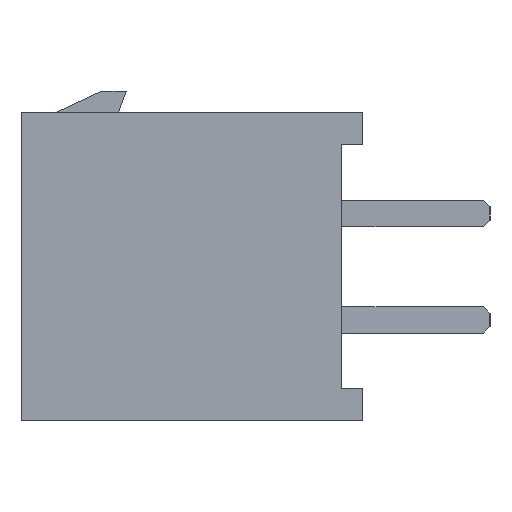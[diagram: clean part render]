
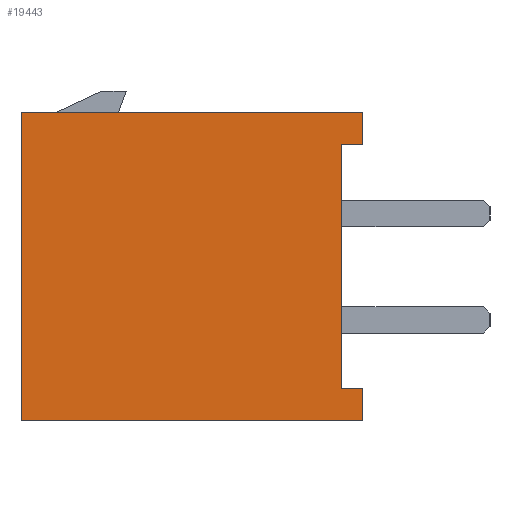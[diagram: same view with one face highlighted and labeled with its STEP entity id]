
A CAD part, left-side view. The second image highlights one B-rep face of the part: STEP entity #19443.
In plain terms, the highlighted planar face has unit normal (-1, 0, 0).
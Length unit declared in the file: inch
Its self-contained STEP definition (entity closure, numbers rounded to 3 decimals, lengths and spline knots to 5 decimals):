
#1281=ORIENTED_EDGE('',*,*,#6048,.F.);
#1282=ORIENTED_EDGE('',*,*,#6263,.F.);
#1283=ORIENTED_EDGE('',*,*,#6836,.F.);
#1284=ORIENTED_EDGE('',*,*,#6833,.F.);
#1285=ORIENTED_EDGE('',*,*,#6146,.F.);
#1286=ORIENTED_EDGE('',*,*,#6831,.F.);
#1287=ORIENTED_EDGE('',*,*,#6828,.F.);
#1288=ORIENTED_EDGE('',*,*,#6590,.F.);
#6048=EDGE_CURVE('',#8922,#8923,#10838,.T.);
#6146=EDGE_CURVE('',#9020,#9021,#10936,.T.);
#6263=EDGE_CURVE('',#9125,#8922,#11053,.T.);
#6590=EDGE_CURVE('',#8923,#9369,#11380,.T.);
#6828=EDGE_CURVE('',#9369,#9524,#11618,.T.);
#6831=EDGE_CURVE('',#9524,#9020,#11621,.T.);
#6833=EDGE_CURVE('',#9021,#9526,#11623,.T.);
#6836=EDGE_CURVE('',#9526,#9125,#11626,.T.);
#8922=VERTEX_POINT('',#26684);
#8923=VERTEX_POINT('',#26686);
#9020=VERTEX_POINT('',#26881);
#9021=VERTEX_POINT('',#26883);
#9125=VERTEX_POINT('',#27112);
#9369=VERTEX_POINT('',#27726);
#9524=VERTEX_POINT('',#28201);
#9526=VERTEX_POINT('',#28210);
#10838=LINE('',#26685,#13712);
#10936=LINE('',#26882,#13810);
#11053=LINE('',#27113,#13927);
#11380=LINE('',#27725,#14254);
#11618=LINE('',#28200,#14492);
#11621=LINE('',#28205,#14495);
#11623=LINE('',#28209,#14497);
#11626=LINE('',#28214,#14500);
#13712=VECTOR('',#21577,39.37008);
#13810=VECTOR('',#21677,39.37008);
#13927=VECTOR('',#21812,39.37008);
#14254=VECTOR('',#22223,39.37008);
#14492=VECTOR('',#22625,39.37008);
#14495=VECTOR('',#22630,39.37008);
#14497=VECTOR('',#22634,39.37008);
#14500=VECTOR('',#22639,39.37008);
#16479=EDGE_LOOP('',(#1281,#1282,#1283,#1284,#1285,#1286,#1287,#1288));
#17479=FACE_BOUND('',#16479,.T.);
#18461=PLANE('',#20463);
#19443=ADVANCED_FACE('',(#17479),#18461,.F.);
#20463=AXIS2_PLACEMENT_3D('',#28215,#22640,#22641);
#21577=DIRECTION('',(0.,0.,1.));
#21677=DIRECTION('',(0.,0.,-1.));
#21812=DIRECTION('',(0.,1.,0.));
#22223=DIRECTION('',(0.,-1.,0.));
#22625=DIRECTION('',(0.,0.,-1.));
#22630=DIRECTION('',(0.,1.,0.));
#22634=DIRECTION('',(0.,-1.,0.));
#22639=DIRECTION('',(0.,0.,-1.));
#22640=DIRECTION('',(1.,0.,0.));
#22641=DIRECTION('',(0.,0.,-1.));
#26684=CARTESIAN_POINT('',(-1.03,0.32,-0.145));
#26685=CARTESIAN_POINT('',(-1.03,0.32,-0.145));
#26686=CARTESIAN_POINT('',(-1.03,0.32,0.145));
#26881=CARTESIAN_POINT('',(-1.03,0.02,0.115));
#26882=CARTESIAN_POINT('',(-1.03,0.02,0.115));
#26883=CARTESIAN_POINT('',(-1.03,0.02,-0.115));
#27112=CARTESIAN_POINT('',(-1.03,0.,-0.145));
#27113=CARTESIAN_POINT('',(-1.03,0.,-0.145));
#27725=CARTESIAN_POINT('',(-1.03,0.32,0.145));
#27726=CARTESIAN_POINT('',(-1.03,0.,0.145));
#28200=CARTESIAN_POINT('',(-1.03,0.,0.145));
#28201=CARTESIAN_POINT('',(-1.03,0.,0.115));
#28205=CARTESIAN_POINT('',(-1.03,0.,0.115));
#28209=CARTESIAN_POINT('',(-1.03,0.02,-0.115));
#28210=CARTESIAN_POINT('',(-1.03,0.,-0.115));
#28214=CARTESIAN_POINT('',(-1.03,0.,-0.115));
#28215=CARTESIAN_POINT('',(-1.03,0.,0.));
